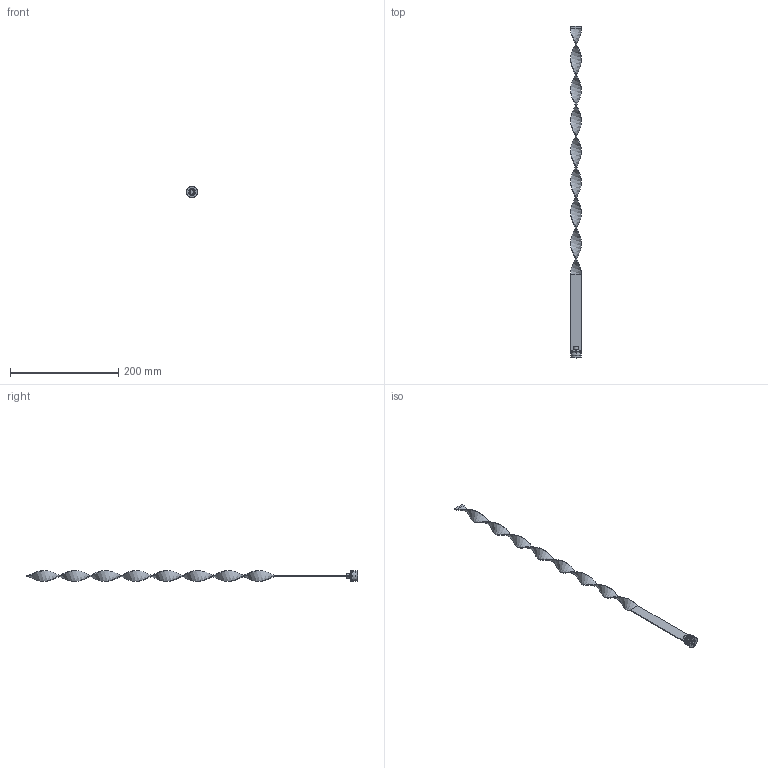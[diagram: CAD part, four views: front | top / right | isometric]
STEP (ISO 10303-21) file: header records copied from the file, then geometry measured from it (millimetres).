
FILE_DESCRIPTION (( 'STEP AP203' ), '1' );
FILE_NAME ('RLS-20Fx600.STEP', '2015-12-10T14:40:41', ( 'Balzi' ), ( '' ), 'SwSTEP 2.0', 'SolidWorks 2015', '' );
FILE_SCHEMA (( 'CONFIG_CONTROL_DESIGN' ));
Length unit declared in the file: millimetre
Products named in the file (1): RLS-20Fx600
Bounding box: 21.5 x 614 x 21.5 mm (x, y, z)
Volume: 22286.3 mm3; surface area: 28705.3 mm2
Topology: 1 solids, 1 shells, 83 faces, 193 edges, 117 vertices
Faces by surface type: plane 35, cone 19, cylinder 17, torus 8, bspline 4
Entity records: 5869 total; most frequent: CARTESIAN_POINT 3904, DIRECTION 406, ORIENTED_EDGE 386, EDGE_CURVE 193, AXIS2_PLACEMENT_3D 151, VERTEX_POINT 117, VECTOR 104, LINE 104
